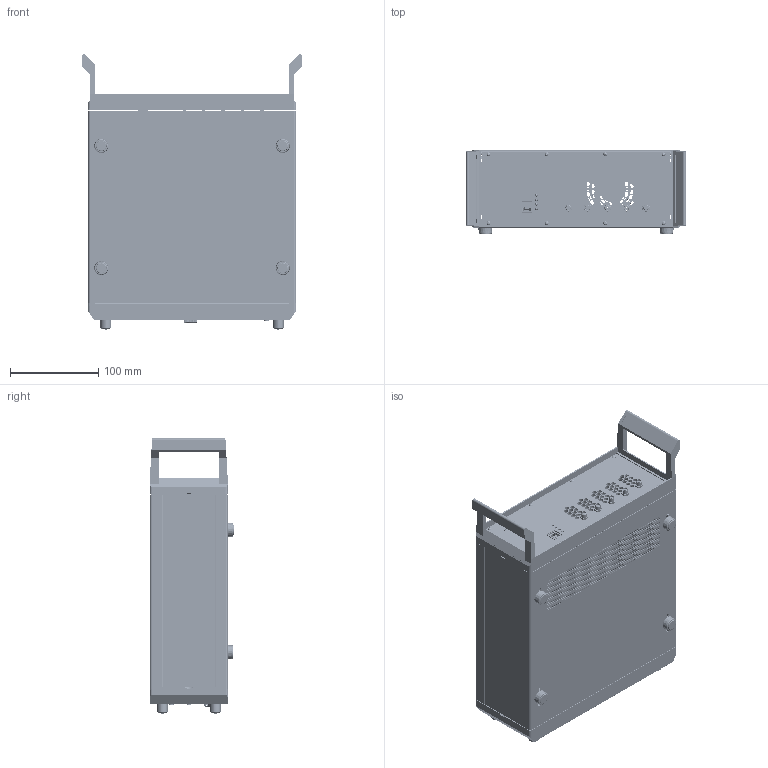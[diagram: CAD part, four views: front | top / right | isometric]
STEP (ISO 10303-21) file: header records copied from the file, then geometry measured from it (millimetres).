
FILE_DESCRIPTION (( 'STEP AP203' ), '1' );
FILE_NAME ('0XXXX_PQ.087.0001.1001.12_BG_PicoHarp330_4P-.STEP', '2026-03-20T09:18:06', ( '' ), ( '' ), 'SwSTEP 2.0', 'SolidWorks 2025', '' );
FILE_SCHEMA (( 'CONFIG_CONTROL_DESIGN' ));
Length unit declared in the file: millimetre
Products named in the file (1): 0XXXX_PQ.087.0001.1001.12_BG_PicoHarp330_4P-
Bounding box: 248.74 x 95.42 x 311.5 mm (x, y, z)
Surface area: 375867.1 mm2 (no closed solid volume)
Topology: 0 solids, 222 shells, 3437 faces, 14073 edges, 10642 vertices
Faces by surface type: cylinder 1575, plane 1544, cone 152, bspline 140, sphere 26
Full cylindrical faces by diameter (mm): 1 x19, 1.23 x1, 2 x960, 2.261 x2, 3 x2, 3.2 x4, 3.4 x4, 3.5 x3, 4 x1, 4.5 x20, 4.6 x6, 4.61 x3, 4.62 x5, 4.8 x3, 5.35 x3, 5.4 x5, 5.451 x11, 5.7 x4, 6.24 x8, 7.5 x2, 8.5 x5, 9.4 x3, 10 x1, 12 x7
Entity records: 139271 total; most frequent: CARTESIAN_POINT 33838, DIRECTION 20841, ORIENTED_EDGE 18340, EDGE_CURVE 11872, VERTEX_POINT 9621, AXIS2_PLACEMENT_3D 7367, EDGE_LOOP 6190, VECTOR 6107
